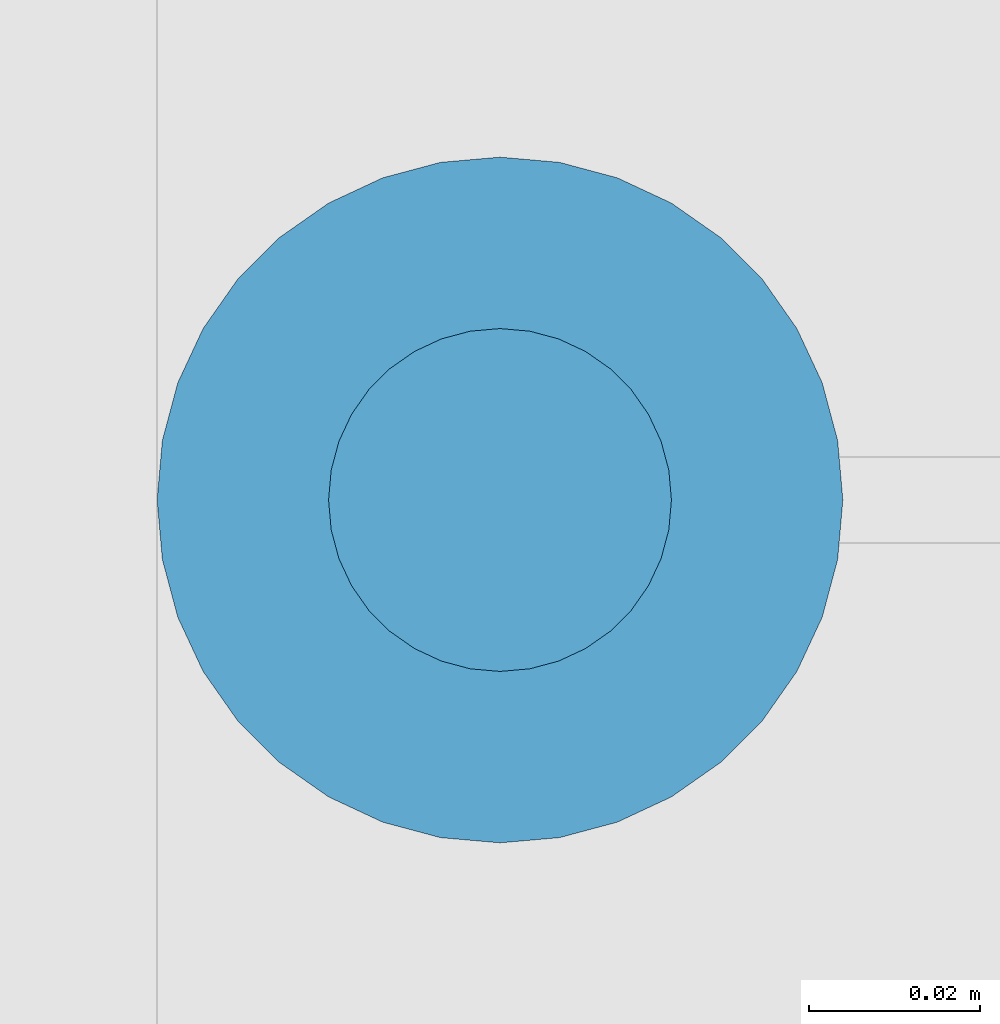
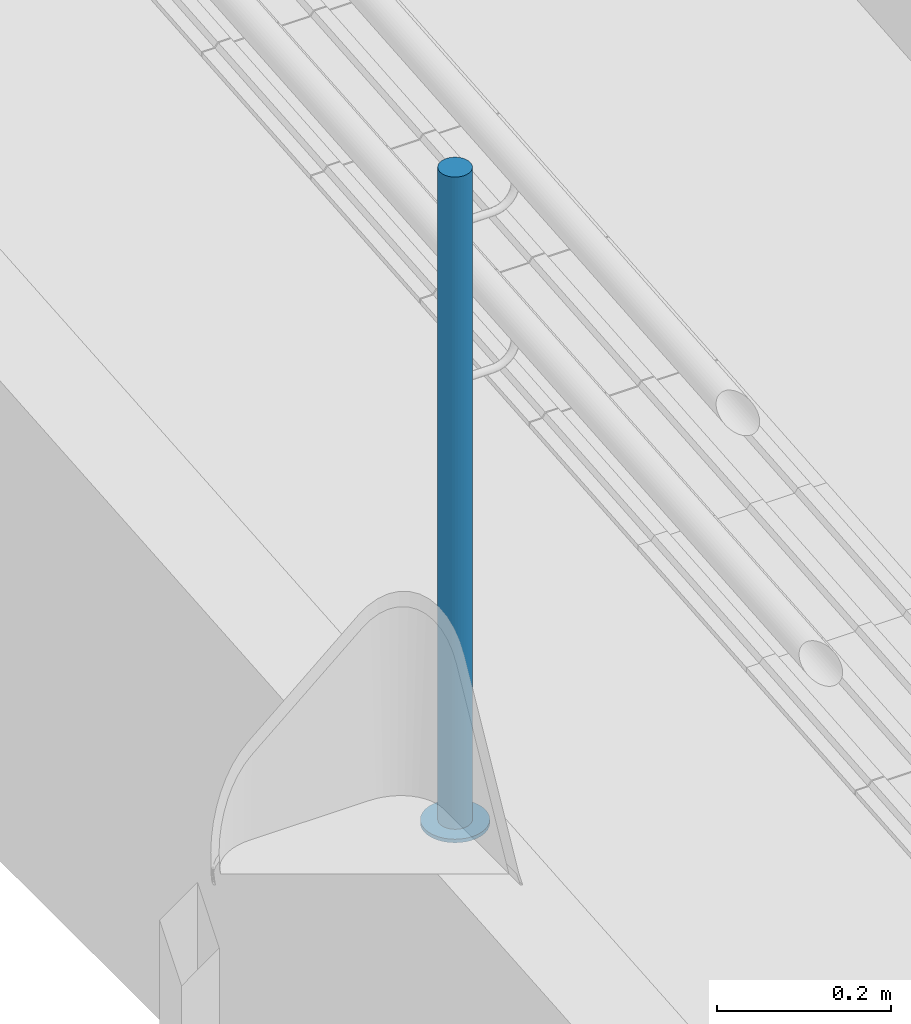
# One storey, part 120 of 237: 2 building element parts, 1 element without a shape of its own.
"""IFC2X3 building model written with IfcOpenShell, lengths in millimetres."""

from ifc_helpers import new_model, entity, si_unit, converted_unit, derived_unit, money_unit, direction, frame, origin_with_axes, place, context, subcontext, project, spatial, faceted_brep, material, type_object, element, aggregate, save


model = new_model("IFC2X3")

# Units and contexts
model_context = context("Model", 3, precision=0.01, world=origin_with_axes(), true_north=direction((0.0, 1.0)))
body_context = subcontext(model_context, "Body", "Model", "MODEL_VIEW")
ifc_project = project(units=[si_unit("LENGTHUNIT", "METRE", prefix="MILLI"), si_unit("AREAUNIT", "SQUARE_METRE"), si_unit("VOLUMEUNIT", "CUBIC_METRE"), converted_unit("PLANEANGLEUNIT", "DEGREE", entity("IfcPlaneAngleMeasure", 0.0174532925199), si_unit("PLANEANGLEUNIT", "RADIAN"), dimensions=[0, 0, 0, 0, 0, 0, 0]), money_unit("USD"), converted_unit("TIMEUNIT", "Year", entity("IfcTimeMeasure", 31556926.0), si_unit("TIMEUNIT", "SECOND"), dimensions=[0, 0, 1, 0, 0, 0, 0]), si_unit("MASSUNIT", "GRAM", prefix="KILO"), si_unit("THERMODYNAMICTEMPERATUREUNIT", "DEGREE_CELSIUS"), si_unit("LUMINOUSINTENSITYUNIT", "LUMEN"), si_unit("ENERGYUNIT", "JOULE", prefix="MEGA"), derived_unit("THERMALCONDUCTANCEUNIT", [(si_unit("POWERUNIT", "WATT"), 1), (si_unit("LENGTHUNIT", "METRE"), -1), (si_unit("THERMODYNAMICTEMPERATUREUNIT", "KELVIN"), -1)]), derived_unit("SPECIFICHEATCAPACITYUNIT", [(si_unit("ENERGYUNIT", "JOULE"), 1), (si_unit("MASSUNIT", "GRAM", prefix="KILO"), -1), (si_unit("THERMODYNAMICTEMPERATUREUNIT", "KELVIN"), -1)]), derived_unit("MASSDENSITYUNIT", [(si_unit("MASSUNIT", "GRAM", prefix="KILO"), 1), (si_unit("VOLUMEUNIT", "CUBIC_METRE"), -1)])], contexts=[model_context])

# Site, building, storey
site_placement = place(None, origin_with_axes())
site = spatial("IfcSite", under=ifc_project, at=site_placement, Name="Local", CompositionType="ELEMENT")
building_placement = place(site_placement, origin_with_axes())
building = spatial("IfcBuilding", under=site, at=building_placement, Name="Construção", CompositionType="ELEMENT")
storey_placement = place(building_placement, origin_with_axes())
storey = spatial("IfcBuildingStorey", under=building, at=storey_placement, Name="Pavimento Térreo", CompositionType="ELEMENT", Elevation=0.0)

# Railing, building element parts
railing_type = type_object("IfcRailingType", Name="Tipo de Guarda-Corpo", PredefinedType="NOTDEFINED")
railing_placement = place(storey_placement, frame((66962.5028921, 35505.5583652, -3484.00572187), z_axis=(0.0, 0.0, 1.0), x_axis=(1.0, 0.0, 0.0)))
railing = element("IfcRailing", 1, at=railing_placement, inside=storey, type_object=railing_type, Name="Guarda-Corpo - 001", PredefinedType="NOTDEFINED")
ifc_material_1 = material(Name="Aço - Inoxidável")
building_element_part_1_placement = place(railing_placement, origin_with_axes())
building_element_part_1 = element("IfcBuildingElementPart", 2, at=building_element_part_1_placement, material=ifc_material_1, Name="Aço - Inoxidável", context=body_context, shape_type="Brep", body=[
    faceted_brep([(20.3038449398, -6889.280743, 100.415619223), (20.0, -6892.75370655, 100.415619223), (20.0, -6892.75370655, 1015.41561922), (20.3038449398, -6889.280743, 1015.41561922), (20.3038449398, -6896.2266701, 100.415619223), (21.2061475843, -6885.91330368, 100.415619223), (22.6794919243, -6882.75370655, 100.415619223), (24.6791111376, -6879.89795435, 100.415619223), (27.1442478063, -6877.43281769, 100.415619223), (30.0, -6875.43319847, 100.415619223), (33.1595971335, -6873.95985413, 100.415619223), (36.5270364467, -6873.05755149, 100.415619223), (40.0, -6872.75370655, 100.415619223), (43.4729635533, -6873.05755149, 100.415619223), (46.8404028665, -6873.95985413, 100.415619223), (50.0, -6875.43319847, 100.415619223), (52.8557521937, -6877.43281769, 100.415619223), (55.3208888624, -6879.89795435, 100.415619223), (57.3205080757, -6882.75370655, 100.415619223), (58.7938524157, -6885.91330368, 100.415619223), (59.6961550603, -6889.280743, 100.415619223), (60.0, -6892.75370655, 100.415619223), (59.6961550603, -6896.2266701, 100.415619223), (58.7938524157, -6899.59410942, 100.415619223), (57.3205080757, -6902.75370655, 100.415619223), (55.3208888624, -6905.60945874, 100.415619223), (52.8557521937, -6908.07459541, 100.415619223), (50.0, -6910.07421462, 100.415619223), (46.8404028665, -6911.54755896, 100.415619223), (43.4729635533, -6912.44986161, 100.415619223), (40.0, -6912.75370655, 100.415619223), (36.5270364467, -6912.44986161, 100.415619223), (33.1595971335, -6911.54755896, 100.415619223), (30.0, -6910.07421462, 100.415619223), (27.1442478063, -6908.07459541, 100.415619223), (24.6791111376, -6905.60945874, 100.415619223), (22.6794919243, -6902.75370655, 100.415619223), (21.2061475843, -6899.59410942, 100.415619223), (20.3038449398, -6896.2266701, 1015.41561922), (43.4729635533, -6873.05755149, 1015.41561922), (40.0, -6872.75370655, 1015.41561922), (36.5270364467, -6873.05755149, 1015.41561922), (33.1595971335, -6873.95985413, 1015.41561922), (30.0, -6875.43319847, 1015.41561922), (27.1442478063, -6877.43281769, 1015.41561922), (24.6791111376, -6879.89795435, 1015.41561922), (22.6794919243, -6882.75370655, 1015.41561922), (21.2061475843, -6885.91330368, 1015.41561922), (21.2061475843, -6899.59410942, 1015.41561922), (22.6794919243, -6902.75370655, 1015.41561922), (24.6791111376, -6905.60945874, 1015.41561922), (27.1442478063, -6908.07459541, 1015.41561922), (30.0, -6910.07421462, 1015.41561922), (33.1595971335, -6911.54755896, 1015.41561922), (36.5270364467, -6912.44986161, 1015.41561922), (40.0, -6912.75370655, 1015.41561922), (43.4729635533, -6912.44986161, 1015.41561922), (46.8404028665, -6911.54755896, 1015.41561922), (50.0, -6910.07421462, 1015.41561922), (52.8557521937, -6908.07459541, 1015.41561922), (55.3208888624, -6905.60945874, 1015.41561922), (57.3205080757, -6902.75370655, 1015.41561922), (58.7938524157, -6899.59410942, 1015.41561922), (59.6961550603, -6896.2266701, 1015.41561922), (60.0, -6892.75370655, 1015.41561922), (59.6961550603, -6889.280743, 1015.41561922), (58.7938524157, -6885.91330368, 1015.41561922), (57.3205080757, -6882.75370655, 1015.41561922), (55.3208888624, -6879.89795435, 1015.41561922), (52.8557521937, -6877.43281769, 1015.41561922), (50.0, -6875.43319847, 1015.41561922), (46.8404028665, -6873.95985413, 1015.41561922)], [[[0, 1, 2, 3]], [[4, 1, 0, 5, 6, 7, 8, 9, 10, 11, 12, 13, 14, 15, 16, 17, 18, 19, 20, 21, 22, 23, 24, 25, 26, 27, 28, 29, 30, 31, 32, 33, 34, 35, 36, 37]], [[1, 4, 38, 2]], [[39, 40, 41, 42, 43, 44, 45, 46, 47, 3, 2, 38, 48, 49, 50, 51, 52, 53, 54, 55, 56, 57, 58, 59, 60, 61, 62, 63, 64, 65, 66, 67, 68, 69, 70, 71]], [[5, 0, 3, 47]], [[6, 5, 47, 46]], [[7, 6, 46, 45]], [[8, 7, 45, 44]], [[9, 8, 44, 43]], [[10, 9, 43, 42]], [[11, 10, 42, 41]], [[12, 11, 41, 40]], [[13, 12, 40, 39]], [[14, 13, 39, 71]], [[15, 14, 71, 70]], [[16, 15, 70, 69]], [[17, 16, 69, 68]], [[18, 17, 68, 67]], [[19, 18, 67, 66]], [[20, 19, 66, 65]], [[21, 20, 65, 64]], [[22, 21, 64, 63]], [[23, 22, 63, 62]], [[24, 23, 62, 61]], [[25, 24, 61, 60]], [[26, 25, 60, 59]], [[27, 26, 59, 58]], [[28, 27, 58, 57]], [[29, 28, 57, 56]], [[30, 29, 56, 55]], [[31, 30, 55, 54]], [[32, 31, 54, 53]], [[33, 32, 53, 52]], [[34, 33, 52, 51]], [[35, 34, 51, 50]], [[36, 35, 50, 49]], [[37, 36, 49, 48]], [[4, 37, 48, 38]]]),
])
ifc_material_2 = material(Name="Alumínio")
building_element_part_2_placement = place(railing_placement, origin_with_axes())
building_element_part_2 = element("IfcBuildingElementPart", 3, at=building_element_part_2_placement, material=ifc_material_2, Name="Alumínio", context=body_context, shape_type="Brep", body=[
    faceted_brep([(40.0, -6932.75370655, 95.415619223), (46.9459271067, -6932.14601667, 95.415619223), (46.9459271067, -6932.14601667, 100.415619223), (40.0, -6932.75370655, 100.415619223), (33.0540728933, -6932.14601667, 95.415619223), (26.319194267, -6930.34141138, 95.415619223), (20.0, -6927.3947227, 95.415619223), (14.2884956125, -6923.39548427, 95.415619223), (9.35822227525, -6918.46521094, 95.415619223), (5.35898384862, -6912.75370655, 95.415619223), (2.41229516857, -6906.43451228, 95.415619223), (0.607689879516, -6899.69963366, 95.415619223), (0.0, -6892.75370655, 95.415619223), (0.607689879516, -6885.80777944, 95.415619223), (2.41229516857, -6879.07290082, 95.415619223), (5.35898384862, -6872.75370655, 95.415619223), (9.35822227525, -6867.04220216, 95.415619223), (14.2884956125, -6862.11192882, 95.415619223), (20.0, -6858.1126904, 95.415619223), (26.319194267, -6855.16600172, 95.415619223), (33.0540728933, -6853.36139643, 95.415619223), (40.0, -6852.75370655, 95.415619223), (46.9459271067, -6853.36139643, 95.415619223), (53.680805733, -6855.16600172, 95.415619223), (60.0, -6858.1126904, 95.415619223), (65.7115043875, -6862.11192882, 95.415619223), (70.6417777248, -6867.04220216, 95.415619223), (74.6410161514, -6872.75370655, 95.415619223), (77.5877048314, -6879.07290082, 95.415619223), (79.3923101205, -6885.80777944, 95.415619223), (80.0, -6892.75370655, 95.415619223), (79.3923101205, -6899.69963366, 95.415619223), (77.5877048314, -6906.43451228, 95.415619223), (74.6410161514, -6912.75370655, 95.415619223), (70.6417777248, -6918.46521094, 95.415619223), (65.7115043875, -6923.39548427, 95.415619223), (60.0, -6927.3947227, 95.415619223), (53.680805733, -6930.34141138, 95.415619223), (53.680805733, -6930.34141138, 100.415619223), (60.0, -6927.3947227, 100.415619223), (65.7115043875, -6923.39548427, 100.415619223), (70.6417777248, -6918.46521094, 100.415619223), (74.6410161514, -6912.75370655, 100.415619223), (77.5877048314, -6906.43451228, 100.415619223), (79.3923101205, -6899.69963366, 100.415619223), (80.0, -6892.75370655, 100.415619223), (79.3923101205, -6885.80777944, 100.415619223), (77.5877048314, -6879.07290082, 100.415619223), (74.6410161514, -6872.75370655, 100.415619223), (70.6417777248, -6867.04220216, 100.415619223), (65.7115043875, -6862.11192882, 100.415619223), (60.0, -6858.1126904, 100.415619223), (53.680805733, -6855.16600172, 100.415619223), (46.9459271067, -6853.36139643, 100.415619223), (40.0, -6852.75370655, 100.415619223), (33.0540728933, -6853.36139643, 100.415619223), (26.319194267, -6855.16600172, 100.415619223), (20.0, -6858.1126904, 100.415619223), (14.2884956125, -6862.11192882, 100.415619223), (9.35822227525, -6867.04220216, 100.415619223), (5.35898384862, -6872.75370655, 100.415619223), (2.41229516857, -6879.07290082, 100.415619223), (0.607689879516, -6885.80777944, 100.415619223), (0.0, -6892.75370655, 100.415619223), (0.607689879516, -6899.69963366, 100.415619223), (2.41229516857, -6906.43451228, 100.415619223), (5.35898384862, -6912.75370655, 100.415619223), (9.35822227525, -6918.46521094, 100.415619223), (14.2884956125, -6923.39548427, 100.415619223), (20.0, -6927.3947227, 100.415619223), (26.319194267, -6930.34141138, 100.415619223), (33.0540728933, -6932.14601667, 100.415619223)], [[[0, 1, 2, 3]], [[0, 4, 5, 6, 7, 8, 9, 10, 11, 12, 13, 14, 15, 16, 17, 18, 19, 20, 21, 22, 23, 24, 25, 26, 27, 28, 29, 30, 31, 32, 33, 34, 35, 36, 37, 1]], [[1, 37, 38, 2]], [[3, 2, 38, 39, 40, 41, 42, 43, 44, 45, 46, 47, 48, 49, 50, 51, 52, 53, 54, 55, 56, 57, 58, 59, 60, 61, 62, 63, 64, 65, 66, 67, 68, 69, 70, 71]], [[4, 0, 3, 71]], [[5, 4, 71, 70]], [[6, 5, 70, 69]], [[7, 6, 69, 68]], [[8, 7, 68, 67]], [[9, 8, 67, 66]], [[10, 9, 66, 65]], [[11, 10, 65, 64]], [[12, 11, 64, 63]], [[13, 12, 63, 62]], [[14, 13, 62, 61]], [[15, 14, 61, 60]], [[16, 15, 60, 59]], [[17, 16, 59, 58]], [[18, 17, 58, 57]], [[19, 18, 57, 56]], [[20, 19, 56, 55]], [[21, 20, 55, 54]], [[22, 21, 54, 53]], [[23, 22, 53, 52]], [[24, 23, 52, 51]], [[25, 24, 51, 50]], [[26, 25, 50, 49]], [[27, 26, 49, 48]], [[28, 27, 48, 47]], [[29, 28, 47, 46]], [[30, 29, 46, 45]], [[31, 30, 45, 44]], [[32, 31, 44, 43]], [[33, 32, 43, 42]], [[34, 33, 42, 41]], [[35, 34, 41, 40]], [[36, 35, 40, 39]], [[37, 36, 39, 38]]]),
])
aggregate(railing, [building_element_part_1, building_element_part_2])

save(model, "model.ifc")
